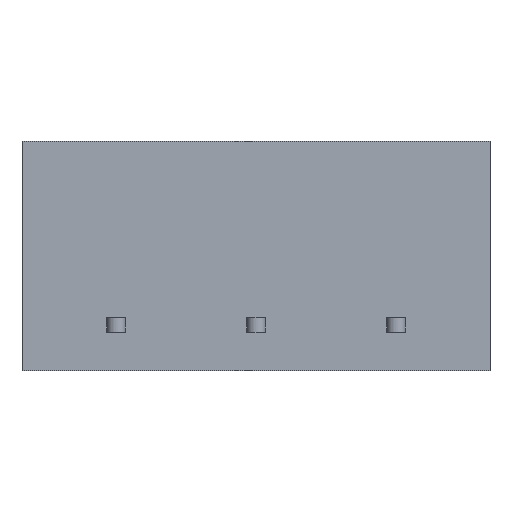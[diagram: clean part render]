
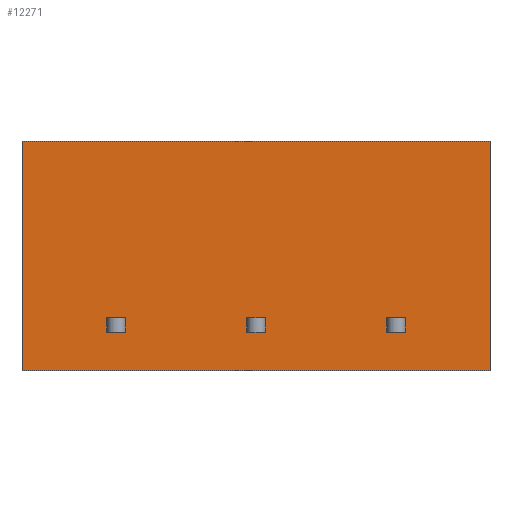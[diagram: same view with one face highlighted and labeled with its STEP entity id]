
A CAD part, front view. The second image highlights one B-rep face of the part: STEP entity #12271.
In plain terms, the highlighted planar face has unit normal (0, -1, 0).
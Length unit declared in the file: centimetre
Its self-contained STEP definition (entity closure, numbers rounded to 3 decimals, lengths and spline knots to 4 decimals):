
#835=VERTEX_POINT('',#15551);
#836=VERTEX_POINT('',#15552);
#839=VERTEX_POINT('',#15560);
#841=VERTEX_POINT('',#15566);
#1192=VERTEX_POINT('',#17114);
#1193=VERTEX_POINT('',#17116);
#1336=VERTEX_POINT('',#17626);
#1337=VERTEX_POINT('',#17627);
#1344=VERTEX_POINT('',#17643);
#1358=VERTEX_POINT('',#17675);
#1511=VERTEX_POINT('',#18235);
#1512=VERTEX_POINT('',#18236);
#1519=VERTEX_POINT('',#18252);
#1533=VERTEX_POINT('',#18284);
#1900=VERTEX_POINT('',#19888);
#1901=VERTEX_POINT('',#19890);
#2039=VECTOR('',#13054,1.);
#2042=VECTOR('',#13060,1.);
#2045=VECTOR('',#13064,1.);
#2063=VECTOR('',#13090,1.);
#2466=VECTOR('',#13649,1.);
#2603=VECTOR('',#13971,1.);
#2611=VECTOR('',#13980,1.);
#2625=VECTOR('',#14000,1.);
#2628=VECTOR('',#14008,1.);
#2783=VECTOR('',#14370,1.);
#2791=VECTOR('',#14379,1.);
#2805=VECTOR('',#14399,1.);
#2808=VECTOR('',#14407,1.);
#3252=VECTOR('',#15031,1.);
#3262=VECTOR('',#15046,1.);
#3263=VECTOR('',#15048,1.);
#3399=LINE('',#15550,#2039);
#3402=LINE('',#15559,#2042);
#3405=LINE('',#15565,#2045);
#3423=LINE('',#15604,#2063);
#3826=LINE('',#17115,#2466);
#3963=LINE('',#17625,#2603);
#3971=LINE('',#17642,#2611);
#3985=LINE('',#17674,#2625);
#3988=LINE('',#17682,#2628);
#4143=LINE('',#18234,#2783);
#4151=LINE('',#18251,#2791);
#4165=LINE('',#18283,#2805);
#4168=LINE('',#18291,#2808);
#4612=LINE('',#19889,#3252);
#4622=LINE('',#19908,#3262);
#4623=LINE('',#19910,#3263);
#4834=EDGE_CURVE('',#835,#836,#3399,.T.);
#4838=EDGE_CURVE('',#836,#839,#3402,.T.);
#4841=EDGE_CURVE('',#839,#841,#3405,.T.);
#4860=EDGE_CURVE('',#841,#835,#3423,.T.);
#5373=EDGE_CURVE('',#1193,#1192,#3826,.T.);
#5589=EDGE_CURVE('',#1336,#1337,#3963,.T.);
#5597=EDGE_CURVE('',#1344,#1336,#3971,.T.);
#5612=EDGE_CURVE('',#1337,#1358,#3985,.T.);
#5616=EDGE_CURVE('',#1358,#1344,#3988,.T.);
#5854=EDGE_CURVE('',#1511,#1512,#4143,.T.);
#5862=EDGE_CURVE('',#1519,#1511,#4151,.T.);
#5877=EDGE_CURVE('',#1512,#1533,#4165,.T.);
#5881=EDGE_CURVE('',#1533,#1519,#4168,.T.);
#6439=EDGE_CURVE('',#1901,#1900,#4612,.T.);
#6449=EDGE_CURVE('',#1901,#1192,#4622,.T.);
#6450=EDGE_CURVE('',#1900,#1193,#4623,.T.);
#10066=ORIENTED_EDGE('',*,*,#4841,.F.);
#10067=ORIENTED_EDGE('',*,*,#4838,.F.);
#10068=ORIENTED_EDGE('',*,*,#4834,.F.);
#10069=ORIENTED_EDGE('',*,*,#4860,.F.);
#10070=ORIENTED_EDGE('',*,*,#5597,.T.);
#10071=ORIENTED_EDGE('',*,*,#5589,.T.);
#10072=ORIENTED_EDGE('',*,*,#5612,.T.);
#10073=ORIENTED_EDGE('',*,*,#5616,.T.);
#10074=ORIENTED_EDGE('',*,*,#5862,.T.);
#10075=ORIENTED_EDGE('',*,*,#5854,.T.);
#10076=ORIENTED_EDGE('',*,*,#5877,.T.);
#10077=ORIENTED_EDGE('',*,*,#5881,.T.);
#10078=ORIENTED_EDGE('',*,*,#6439,.T.);
#10079=ORIENTED_EDGE('',*,*,#6450,.T.);
#10080=ORIENTED_EDGE('',*,*,#5373,.T.);
#10081=ORIENTED_EDGE('',*,*,#6449,.F.);
#10844=EDGE_LOOP('',(#10066,#10067,#10068,#10069));
#10845=EDGE_LOOP('',(#10070,#10071,#10072,#10073));
#10846=EDGE_LOOP('',(#10074,#10075,#10076,#10077));
#10847=EDGE_LOOP('',(#10078,#10079,#10080,#10081));
#11588=FACE_BOUND('',#10844,.T.);
#11589=FACE_BOUND('',#10845,.T.);
#11590=FACE_BOUND('',#10846,.T.);
#11591=FACE_BOUND('',#10847,.T.);
#12271=ADVANCED_FACE('',(#11588,#11589,#11590,#11591),#12744,.T.);
#12744=PLANE('',#20622);
#13054=DIRECTION('',(-1.,0.,0.));
#13060=DIRECTION('',(0.,0.,-1.));
#13064=DIRECTION('',(1.,0.,0.));
#13090=DIRECTION('',(0.,0.,1.));
#13649=DIRECTION('',(0.,0.,1.));
#13971=DIRECTION('',(0.,0.,1.));
#13980=DIRECTION('',(-1.,0.,0.));
#14000=DIRECTION('',(1.,0.,0.));
#14008=DIRECTION('',(0.,0.,-1.));
#14370=DIRECTION('',(0.,0.,1.));
#14379=DIRECTION('',(-1.,0.,0.));
#14399=DIRECTION('',(1.,0.,0.));
#14407=DIRECTION('',(0.,0.,-1.));
#15031=DIRECTION('',(0.,0.,-1.));
#15046=DIRECTION('',(1.,0.,0.));
#15047=DIRECTION('',(0.,-1.,0.));
#15048=DIRECTION('',(1.,0.,0.));
#15550=CARTESIAN_POINT('',(-0.465,0.,-0.335));
#15551=CARTESIAN_POINT('',(-0.26,0.,-0.335));
#15552=CARTESIAN_POINT('',(-0.36,0.,-0.335));
#15559=CARTESIAN_POINT('',(-0.36,0.,-0.1875));
#15560=CARTESIAN_POINT('',(-0.36,0.,-0.415));
#15565=CARTESIAN_POINT('',(-0.465,0.,-0.415));
#15566=CARTESIAN_POINT('',(-0.26,0.,-0.415));
#15604=CARTESIAN_POINT('',(-0.26,0.,-0.1875));
#17114=CARTESIAN_POINT('',(1.726,0.,0.625));
#17115=CARTESIAN_POINT('',(1.726,0.,0.625));
#17116=CARTESIAN_POINT('',(1.726,0.,-0.625));
#17625=CARTESIAN_POINT('',(1.164,0.,-0.1875));
#17626=CARTESIAN_POINT('',(1.164,0.,-0.415));
#17627=CARTESIAN_POINT('',(1.164,0.,-0.335));
#17642=CARTESIAN_POINT('',(0.607,0.,-0.415));
#17643=CARTESIAN_POINT('',(1.264,0.,-0.415));
#17674=CARTESIAN_POINT('',(0.607,0.,-0.335));
#17675=CARTESIAN_POINT('',(1.264,0.,-0.335));
#17682=CARTESIAN_POINT('',(1.264,0.,-0.1875));
#18234=CARTESIAN_POINT('',(0.402,0.,-0.1875));
#18235=CARTESIAN_POINT('',(0.402,0.,-0.415));
#18236=CARTESIAN_POINT('',(0.402,0.,-0.335));
#18251=CARTESIAN_POINT('',(0.226,0.,-0.415));
#18252=CARTESIAN_POINT('',(0.502,0.,-0.415));
#18283=CARTESIAN_POINT('',(0.226,0.,-0.335));
#18284=CARTESIAN_POINT('',(0.502,0.,-0.335));
#18291=CARTESIAN_POINT('',(0.502,0.,-0.1875));
#19888=CARTESIAN_POINT('',(-0.822,0.,-0.625));
#19889=CARTESIAN_POINT('',(-0.822,0.,-0.625));
#19890=CARTESIAN_POINT('',(-0.822,0.,0.625));
#19908=CARTESIAN_POINT('',(-0.762,0.,0.625));
#19909=CARTESIAN_POINT('',(-0.762,0.,0.));
#19910=CARTESIAN_POINT('',(-0.762,0.,-0.625));
#20622=AXIS2_PLACEMENT_3D('',#19909,#15047,$);
